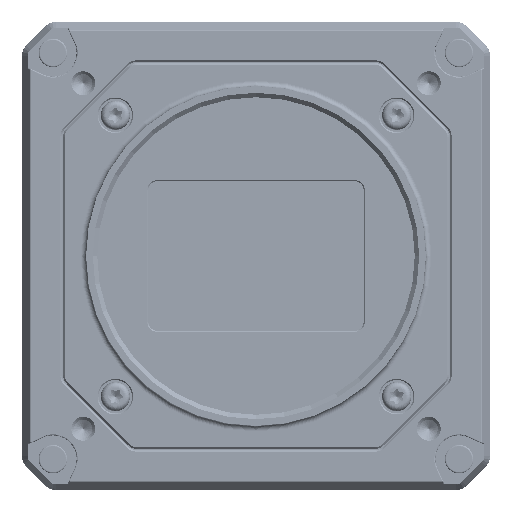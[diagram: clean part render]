
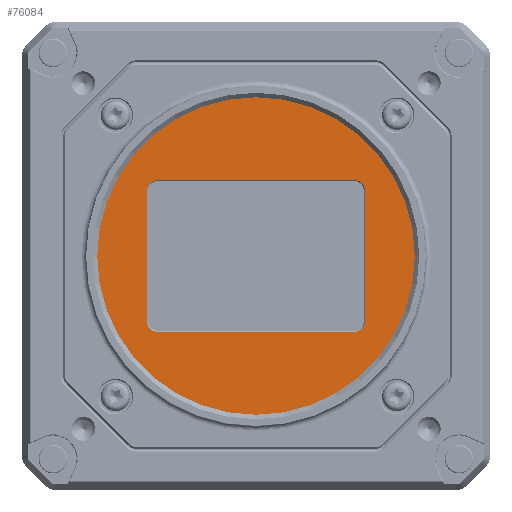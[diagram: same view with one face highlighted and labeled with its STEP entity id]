
A CAD part, left-side view. The second image highlights one B-rep face of the part: STEP entity #76084.
In plain terms, the highlighted planar face has unit normal (-1, 0, 0).
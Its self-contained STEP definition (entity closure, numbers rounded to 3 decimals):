
#27612=CARTESIAN_POINT('',(4.74,0.,0.));
#27613=DIRECTION('',(1.,0.,0.));
#27614=DIRECTION('',(0.,0.,-1.));
#27615=AXIS2_PLACEMENT_3D('',#27612,#27613,#27614);
#27617=CARTESIAN_POINT('',(4.74,0.,0.));
#27618=DIRECTION('',(1.,0.,0.));
#27619=DIRECTION('',(0.,0.,1.));
#27620=AXIS2_PLACEMENT_3D('',#27617,#27618,#27619);
#27622=CARTESIAN_POINT('',(4.74,17.8,11.9));
#27623=DIRECTION('',(-1.,0.,0.));
#27624=DIRECTION('',(0.,0.,1.));
#27625=AXIS2_PLACEMENT_3D('',#27622,#27623,#27624);
#27627=DIRECTION('',(0.,0.,-1.));
#27628=VECTOR('',#27627,23.8);
#27629=CARTESIAN_POINT('',(4.74,19.5,11.9));
#27630=LINE('',#27629,#27628);
#27631=CARTESIAN_POINT('',(4.74,17.8,-11.9));
#27632=DIRECTION('',(-1.,0.,0.));
#27633=DIRECTION('',(0.,1.,0.));
#27634=AXIS2_PLACEMENT_3D('',#27631,#27632,#27633);
#27636=CARTESIAN_POINT('',(4.74,-17.8,-11.9));
#27637=DIRECTION('',(-1.,0.,0.));
#27638=DIRECTION('',(0.,0.,-1.));
#27639=AXIS2_PLACEMENT_3D('',#27636,#27637,#27638);
#27641=CARTESIAN_POINT('',(4.74,-17.8,11.9));
#27642=DIRECTION('',(-1.,0.,0.));
#27643=DIRECTION('',(0.,-1.,0.));
#27644=AXIS2_PLACEMENT_3D('',#27641,#27642,#27643);
#27663=DIRECTION('',(0.,-1.,0.));
#27664=VECTOR('',#27663,35.6);
#27665=CARTESIAN_POINT('',(4.74,17.8,13.6));
#27666=LINE('',#27665,#27664);
#27684=DIRECTION('',(0.,0.,-1.));
#27685=VECTOR('',#27684,23.8);
#27686=CARTESIAN_POINT('',(4.74,-19.5,
11.9));
#27687=LINE('',#27686,#27685);
#27705=DIRECTION('',(0.,1.,0.));
#27706=VECTOR('',#27705,35.6);
#27707=CARTESIAN_POINT('',(4.74,-17.8,
-13.6));
#27708=LINE('',#27707,#27706);
#35782=CARTESIAN_POINT('',(4.74,0.,-29.25));
#35783=CARTESIAN_POINT('',(4.74,0.,29.25));
#35784=VERTEX_POINT('',#35782);
#35785=VERTEX_POINT('',#35783);
#35786=CARTESIAN_POINT('',(4.74,17.8,13.6));
#35787=CARTESIAN_POINT('',(4.74,19.5,11.9));
#35788=VERTEX_POINT('',#35786);
#35789=VERTEX_POINT('',#35787);
#35790=CARTESIAN_POINT('',(4.74,19.5,
-11.9));
#35791=VERTEX_POINT('',#35790);
#35792=CARTESIAN_POINT('',(4.74,17.8,-13.6));
#35793=VERTEX_POINT('',#35792);
#35794=CARTESIAN_POINT('',(4.74,-17.8,
-13.6));
#35795=VERTEX_POINT('',#35794);
#35796=CARTESIAN_POINT('',(4.74,-19.5,-11.9));
#35797=VERTEX_POINT('',#35796);
#35798=CARTESIAN_POINT('',(4.74,-19.5,
11.9));
#35799=VERTEX_POINT('',#35798);
#35800=CARTESIAN_POINT('',(4.74,-17.8,13.6));
#35801=VERTEX_POINT('',#35800);
#76056=CARTESIAN_POINT('',(4.74,0.,0.));
#76057=DIRECTION('',(1.,0.,0.));
#76058=DIRECTION('',(0.,-1.,0.));
#76059=AXIS2_PLACEMENT_3D('',#76056,#76057,#76058);
#76060=PLANE('',#76059);
#76061=ORIENTED_EDGE('',*,*,#76046,.T.);
#76063=ORIENTED_EDGE('',*,*,#76062,.T.);
#76064=EDGE_LOOP('',(#76061,#76063));
#76065=FACE_OUTER_BOUND('',#76064,.F.);
#76067=ORIENTED_EDGE('',*,*,#76066,.T.);
#76069=ORIENTED_EDGE('',*,*,#76068,.T.);
#76071=ORIENTED_EDGE('',*,*,#76070,.T.);
#76073=ORIENTED_EDGE('',*,*,#76072,.F.);
#76075=ORIENTED_EDGE('',*,*,#76074,.T.);
#76077=ORIENTED_EDGE('',*,*,#76076,.F.);
#76079=ORIENTED_EDGE('',*,*,#76078,.T.);
#76081=ORIENTED_EDGE('',*,*,#76080,.F.);
#76082=EDGE_LOOP('',(#76067,#76069,#76071,#76073,#76075,#76077,#76079,#76081));
#76083=FACE_BOUND('',#76082,.F.);
#76084=ADVANCED_FACE('',(#76065,#76083),#76060,.F.);
#27616=CIRCLE('',#27615,29.25);
#27621=CIRCLE('',#27620,29.25);
#27626=CIRCLE('',#27625,1.7);
#27635=CIRCLE('',#27634,1.7);
#27640=CIRCLE('',#27639,1.7);
#27645=CIRCLE('',#27644,1.7);
#76046=EDGE_CURVE('',#35784,#35785,#27616,.T.);
#76062=EDGE_CURVE('',#35785,#35784,#27621,.T.);
#76066=EDGE_CURVE('',#35788,#35789,#27626,.T.);
#76068=EDGE_CURVE('',#35789,#35791,#27630,.T.);
#76070=EDGE_CURVE('',#35791,#35793,#27635,.T.);
#76072=EDGE_CURVE('',#35795,#35793,#27708,.T.);
#76074=EDGE_CURVE('',#35795,#35797,#27640,.T.);
#76076=EDGE_CURVE('',#35799,#35797,#27687,.T.);
#76078=EDGE_CURVE('',#35799,#35801,#27645,.T.);
#76080=EDGE_CURVE('',#35788,#35801,#27666,.T.);
